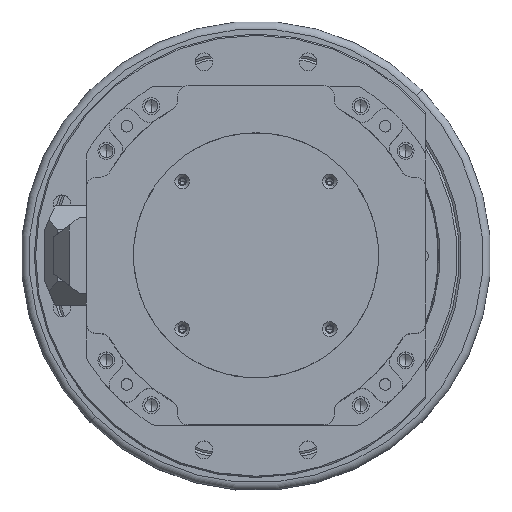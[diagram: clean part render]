
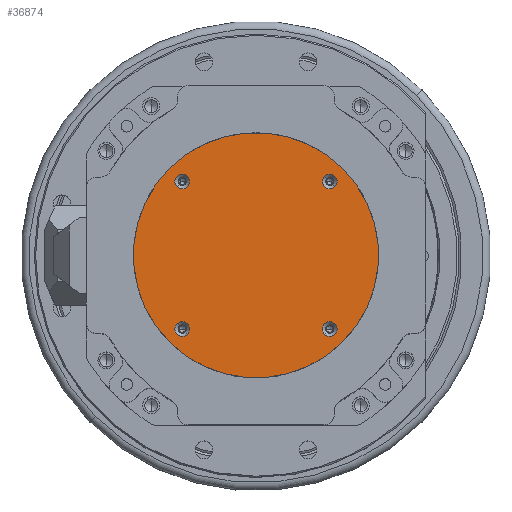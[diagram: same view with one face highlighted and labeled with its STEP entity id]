
A CAD part, top view. The second image highlights one B-rep face of the part: STEP entity #36874.
In plain terms, the highlighted planar face has unit normal (0, 0, 1).
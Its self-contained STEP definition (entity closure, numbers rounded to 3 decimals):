
#36458=CARTESIAN_POINT('',(0.,0.,3.));
#36459=DIRECTION('',(0.,0.,-1.));
#36460=DIRECTION('',(1.,0.,0.));
#36461=AXIS2_PLACEMENT_3D('',#36458,#36459,#36460);
#36463=CARTESIAN_POINT('',(0.,0.,3.));
#36464=DIRECTION('',(0.,0.,-1.));
#36465=DIRECTION('',(-1.,0.,0.));
#36466=AXIS2_PLACEMENT_3D('',#36463,#36464,#36465);
#36468=CARTESIAN_POINT('',(0.,-40.,3.));
#36469=DIRECTION('',(0.,0.,1.));
#36470=DIRECTION('',(-1.,0.,0.));
#36471=AXIS2_PLACEMENT_3D('',#36468,#36469,#36470);
#36473=CARTESIAN_POINT('',(0.,-40.,3.));
#36474=DIRECTION('',(0.,0.,1.));
#36475=DIRECTION('',(1.,0.,0.));
#36476=AXIS2_PLACEMENT_3D('',#36473,#36474,#36475);
#36478=CARTESIAN_POINT('',(-40.,0.,3.));
#36479=DIRECTION('',(0.,0.,1.));
#36480=DIRECTION('',(0.,1.,0.));
#36481=AXIS2_PLACEMENT_3D('',#36478,#36479,#36480);
#36483=CARTESIAN_POINT('',(-40.,0.,3.));
#36484=DIRECTION('',(0.,0.,1.));
#36485=DIRECTION('',(0.,-1.,0.));
#36486=AXIS2_PLACEMENT_3D('',#36483,#36484,#36485);
#36488=CARTESIAN_POINT('',(0.,40.,3.));
#36489=DIRECTION('',(0.,0.,1.));
#36490=DIRECTION('',(1.,0.,0.));
#36491=AXIS2_PLACEMENT_3D('',#36488,#36489,#36490);
#36493=CARTESIAN_POINT('',(0.,40.,3.));
#36494=DIRECTION('',(0.,0.,1.));
#36495=DIRECTION('',(-1.,0.,0.));
#36496=AXIS2_PLACEMENT_3D('',#36493,#36494,#36495);
#36498=CARTESIAN_POINT('',(40.,0.,3.));
#36499=DIRECTION('',(0.,0.,1.));
#36500=DIRECTION('',(0.,-1.,0.));
#36501=AXIS2_PLACEMENT_3D('',#36498,#36499,#36500);
#36503=CARTESIAN_POINT('',(40.,0.,3.));
#36504=DIRECTION('',(0.,0.,1.));
#36505=DIRECTION('',(0.,1.,0.));
#36506=AXIS2_PLACEMENT_3D('',#36503,#36504,#36505);
#36732=CARTESIAN_POINT('',(-2.8,-40.,3.));
#36733=VERTEX_POINT('',#36732);
#36734=CARTESIAN_POINT('',(2.8,-40.,3.));
#36735=VERTEX_POINT('',#36734);
#36736=CARTESIAN_POINT('',(47.,0.,3.));
#36737=CARTESIAN_POINT('',(-47.,0.,3.));
#36738=VERTEX_POINT('',#36736);
#36739=VERTEX_POINT('',#36737);
#36740=CARTESIAN_POINT('',(-40.,2.8,3.));
#36741=CARTESIAN_POINT('',(-40.,-2.8,3.));
#36742=VERTEX_POINT('',#36740);
#36743=VERTEX_POINT('',#36741);
#36744=CARTESIAN_POINT('',(2.8,40.,3.));
#36745=CARTESIAN_POINT('',(-2.8,40.,3.));
#36746=VERTEX_POINT('',#36744);
#36747=VERTEX_POINT('',#36745);
#36748=CARTESIAN_POINT('',(40.,-2.8,3.));
#36749=CARTESIAN_POINT('',(40.,2.8,3.));
#36750=VERTEX_POINT('',#36748);
#36751=VERTEX_POINT('',#36749);
#36841=CARTESIAN_POINT('',(0.,0.,3.));
#36842=DIRECTION('',(0.,0.,1.));
#36843=DIRECTION('',(1.,0.,0.));
#36844=AXIS2_PLACEMENT_3D('',#36841,#36842,#36843);
#36845=PLANE('',#36844);
#36847=ORIENTED_EDGE('',*,*,#36846,.T.);
#36849=ORIENTED_EDGE('',*,*,#36848,.T.);
#36850=EDGE_LOOP('',(#36847,#36849));
#36851=FACE_OUTER_BOUND('',#36850,.F.);
#36852=ORIENTED_EDGE('',*,*,#36822,.T.);
#36853=ORIENTED_EDGE('',*,*,#36833,.T.);
#36854=EDGE_LOOP('',(#36852,#36853));
#36855=FACE_BOUND('',#36854,.F.);
#36857=ORIENTED_EDGE('',*,*,#36856,.T.);
#36859=ORIENTED_EDGE('',*,*,#36858,.T.);
#36860=EDGE_LOOP('',(#36857,#36859));
#36861=FACE_BOUND('',#36860,.F.);
#36863=ORIENTED_EDGE('',*,*,#36862,.T.);
#36865=ORIENTED_EDGE('',*,*,#36864,.T.);
#36866=EDGE_LOOP('',(#36863,#36865));
#36867=FACE_BOUND('',#36866,.F.);
#36869=ORIENTED_EDGE('',*,*,#36868,.T.);
#36871=ORIENTED_EDGE('',*,*,#36870,.T.);
#36872=EDGE_LOOP('',(#36869,#36871));
#36873=FACE_BOUND('',#36872,.F.);
#36874=ADVANCED_FACE('',(#36851,#36855,#36861,#36867,#36873),#36845,.T.);
#36462=CIRCLE('',#36461,47.);
#36467=CIRCLE('',#36466,47.);
#36472=CIRCLE('',#36471,2.8);
#36477=CIRCLE('',#36476,2.8);
#36482=CIRCLE('',#36481,2.8);
#36487=CIRCLE('',#36486,2.8);
#36492=CIRCLE('',#36491,2.8);
#36497=CIRCLE('',#36496,2.8);
#36502=CIRCLE('',#36501,2.8);
#36507=CIRCLE('',#36506,2.8);
#36822=EDGE_CURVE('',#36733,#36735,#36472,.T.);
#36833=EDGE_CURVE('',#36735,#36733,#36477,.T.);
#36846=EDGE_CURVE('',#36738,#36739,#36462,.T.);
#36848=EDGE_CURVE('',#36739,#36738,#36467,.T.);
#36856=EDGE_CURVE('',#36742,#36743,#36482,.T.);
#36858=EDGE_CURVE('',#36743,#36742,#36487,.T.);
#36862=EDGE_CURVE('',#36746,#36747,#36492,.T.);
#36864=EDGE_CURVE('',#36747,#36746,#36497,.T.);
#36868=EDGE_CURVE('',#36750,#36751,#36502,.T.);
#36870=EDGE_CURVE('',#36751,#36750,#36507,.T.);
